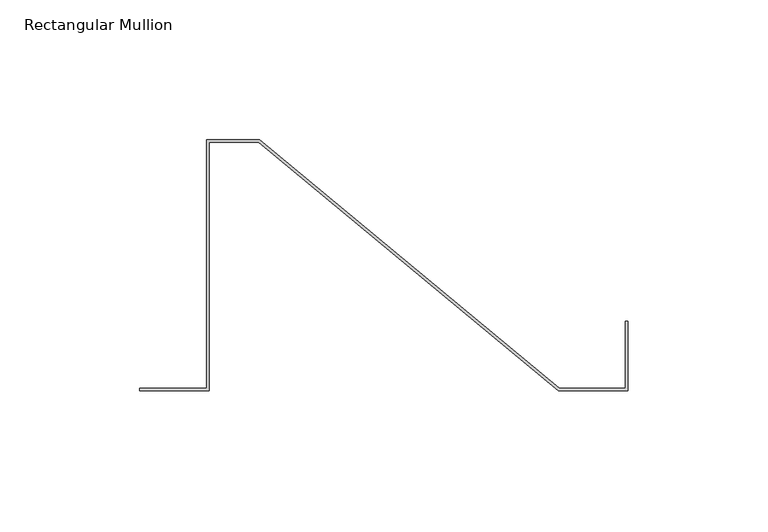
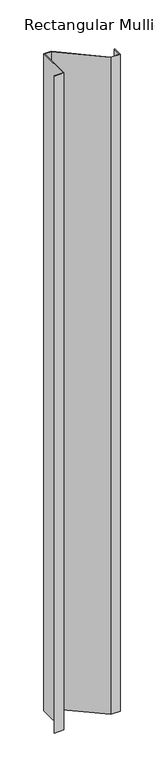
"""IFC4 building model written with IfcOpenShell, lengths in millimetres: member geometry, Rectangular Mullion : CD_NINELINE_Sawtooth End."""

from ifc_helpers import new_model, si_unit, frame, origin, place, context, project, spatial, polyline, outline, extrude, source, transform, mapped, element, save


def rectangular_mullion_2ff98cbb(model_context):
    return source(origin(), model_context, "Body", "SweptSolid", [
        extrude(outline(polyline([(-150.0, 0.0), (-175.0, 0.0), (-175.0, 1.0), (-151.0, 1.0), (-151.0, 90.0), (-132.0120255, 90.0), (-24.587175, 1.0), (-1.0, 1.0), (-1.0, 25.0), (0.0, 25.0), (0.0, 0.0), (-25.0, 0.0), (-132.4248505, 89.0), (-150.0, 89.0), (-150.0, 0.0)])), frame((0.0, 0.0, -1852.0), z_axis=(0.0, 0.0, 1.0), x_axis=(1.0, 0.0, 0.0)), (0.0, 0.0, 1.0), 1852.0),
    ])


if __name__ == "__main__":
    model = new_model("IFC4")
    model_context = context("Model", 3, world=origin())
    ifc_project = project(units=[si_unit("LENGTHUNIT", "METRE", prefix="MILLI")], contexts=[model_context])
    site = spatial("IfcSite", under=ifc_project)
    building = spatial("IfcBuilding", under=site)
    placement = place(None, origin())
    rectangular_mullion_shape = rectangular_mullion_2ff98cbb(model_context)
    element("IfcMember", 1, ObjectType="Rectangular Mullion : CD_NINELINE_Sawtooth End", at=placement, inside=building, context=model_context, shape_type="MappedRepresentation", body=[
        mapped(rectangular_mullion_shape, transform((0.0, 0.0, 0.0), x_axis=(1.0, 0.0, 0.0), y_axis=(0.0, 1.0, 0.0), z_axis=(0.0, 0.0, 1.0))),
    ])
    save(model, "model.ifc")
